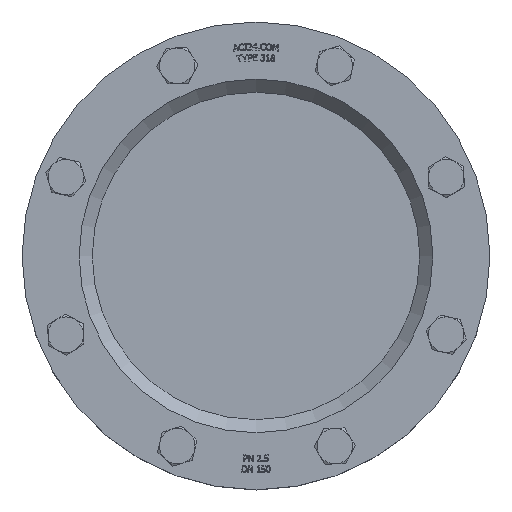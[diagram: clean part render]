
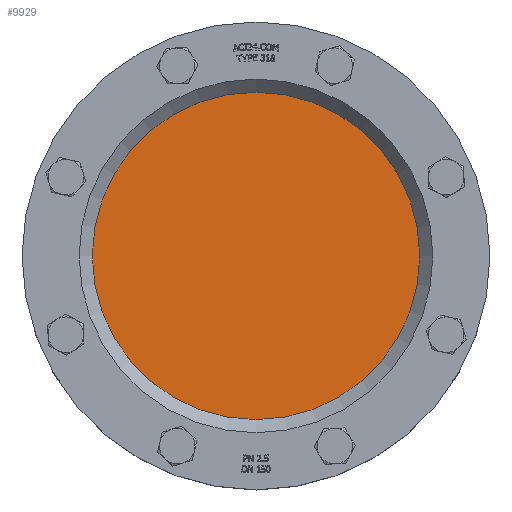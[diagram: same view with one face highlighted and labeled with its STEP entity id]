
A CAD part, top view. The second image highlights one B-rep face of the part: STEP entity #9929.
In plain terms, the highlighted planar face has unit normal (0, 0, 1).
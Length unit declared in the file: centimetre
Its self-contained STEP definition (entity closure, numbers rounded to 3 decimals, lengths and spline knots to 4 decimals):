
#2585=PLANE('',#10360);
#3112=FACE_OUTER_BOUND('',#3705,.T.);
#3705=EDGE_LOOP('',(#8826));
#3744=CIRCLE('',#10036,8.75);
#3968=VERTEX_POINT('',#12488);
#4910=EDGE_CURVE('',#3968,#3968,#3744,.T.);
#8826=ORIENTED_EDGE('',*,*,#4910,.F.);
#9929=ADVANCED_FACE('',(#3112),#2585,.T.);
#10036=AXIS2_PLACEMENT_3D('',#12489,#10618,#10619);
#10360=AXIS2_PLACEMENT_3D('',#17242,#12063,#12064);
#10618=DIRECTION('center_axis',(0.,0.,-1.));
#10619=DIRECTION('ref_axis',(-1.,0.,0.));
#12063=DIRECTION('center_axis',(0.,0.,1.));
#12064=DIRECTION('ref_axis',(1.,0.,0.));
#12488=CARTESIAN_POINT('',(8.75,0.,2.95));
#12489=CARTESIAN_POINT('Origin',(0.,0.,
2.95));
#17242=CARTESIAN_POINT('Origin',(0.,0.,
2.95));
